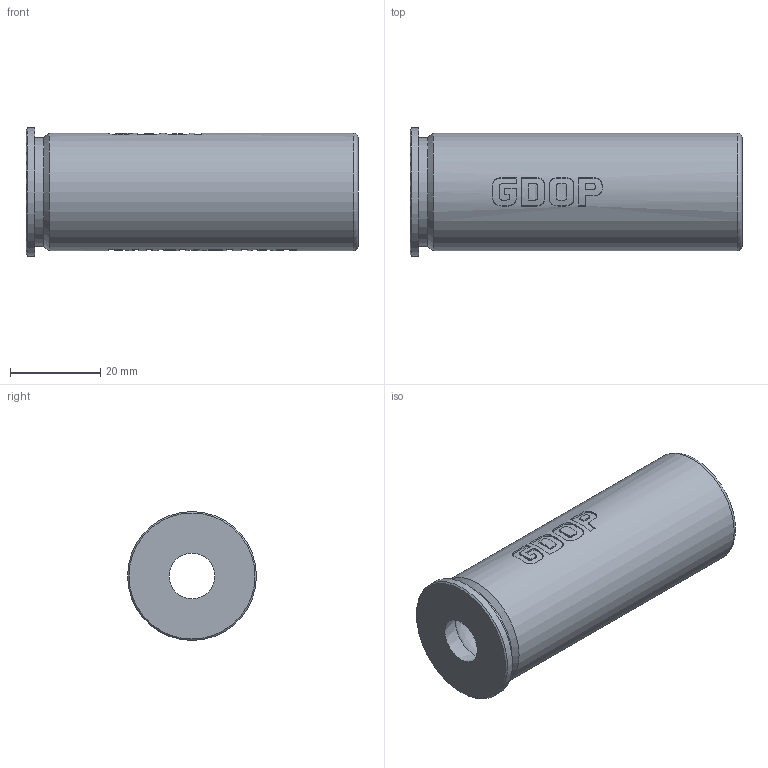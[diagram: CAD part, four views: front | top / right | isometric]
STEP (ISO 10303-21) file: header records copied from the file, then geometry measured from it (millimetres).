
FILE_DESCRIPTION(/* description */ (''),/* implementation_level */ '2;1');
FILE_NAME(/* name */ 'C:\Users\hxl54\Desktop\Nerf\SpringThunder_Licensed\Buckshot_Shell_ModFlat_V1.stp',/* time_stamp */ '2020-11-26T14:16:59-05:00',/* author */ ('hxl54'),/* organization */ (''),/* preprocessor_version */ 'ST-DEVELOPER v16.5',/* originating_system */ 'Autodesk Inventor 2017',/* authorisation */ '');
FILE_SCHEMA (('AUTOMOTIVE_DESIGN { 1 0 10303 214 3 1 1 }'));
Length unit declared in the file: inch
Products named in the file (1): Buckshot_Shell_ModFlat_V1
Bounding box: 73.66 x 28.57 x 28.57 mm (x, y, z)
Volume: 13311.8 mm3; surface area: 11973.3 mm2
Topology: 1 solids, 1 shells, 201 faces, 534 edges, 354 vertices
Faces by surface type: plane 115, bspline 58, cylinder 22, cone 4, sphere 1, torus 1
Full cylindrical faces by diameter (mm): 21.717 x1, 24.13 x1, 26.162 x1, 28.575 x1
Entity records: 7078 total; most frequent: CARTESIAN_POINT 2362, ORIENTED_EDGE 1046, DIRECTION 818, EDGE_CURVE 523, VERTEX_POINT 353, LINE 284, VECTOR 284, AXIS2_PLACEMENT_3D 267
